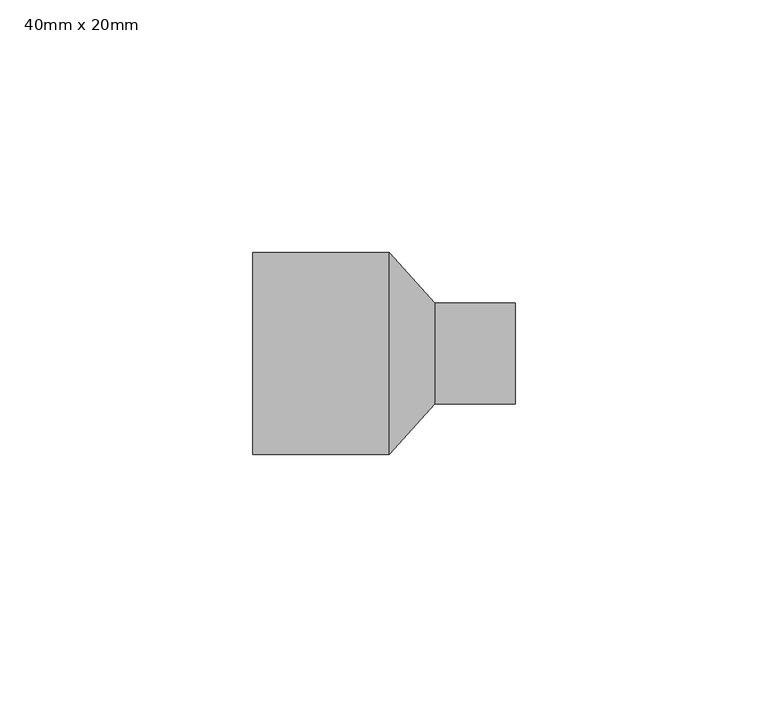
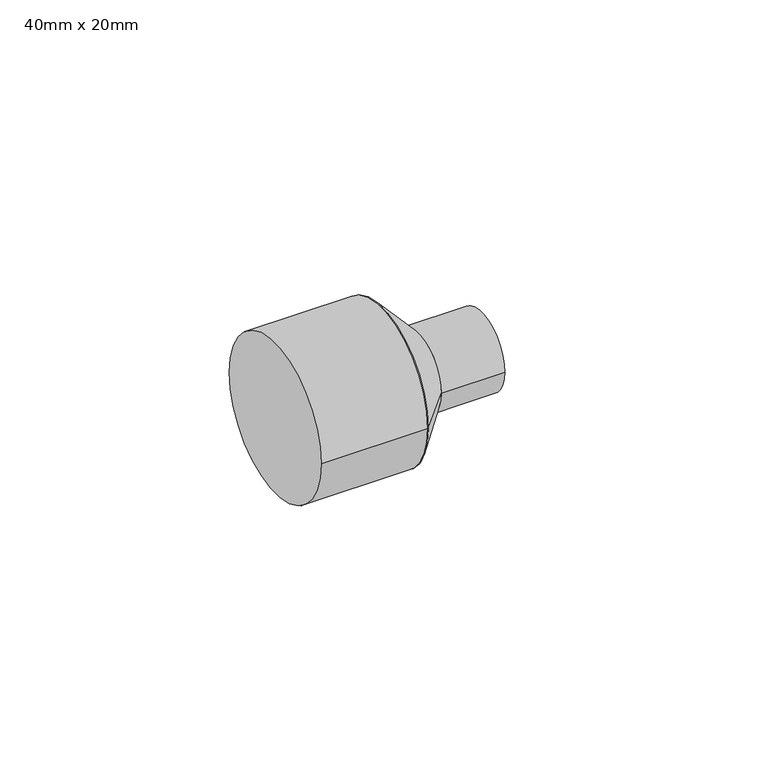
"""IFC4 building model written with IfcOpenShell, lengths in millimetres: pipe fitting geometry, PipeFitting_HTA_CPVC_ReducingBushesLongPattern : 40mm x 20mm."""

from ifc_helpers import new_model, si_unit, point, frame, origin, origin_2d, place, context, project, spatial, polyline, circle_curve, trimmed, segment, composite_curve, outline, extrude, source, transform, mapped, element, save
from ifc_brep_helpers import plane_surface, revolved_surface, advanced_brep


def pipe_fitting_40mm_x_20mm_d5b63251(model_context):
    return source(origin(), model_context, "Body", "SolidModel", [
        advanced_brep(
        [(36.0, -10.0, 0.0), (36.0, 10.0, 0.0), (27.0, -20.0, 0.0), (27.0, 20.0, 0.0)],
        [
            (0, 1, circle_curve(frame((36.0, 0.0, 0.0), z_axis=(1.0, 0.0, 0.0), x_axis=(0.0, -1.0, 0.0)), 10.0)),
            (1, 0, circle_curve(frame((36.0, 0.0, 0.0), z_axis=(1.0, 0.0, 0.0), x_axis=(0.0, 1.0, 0.0)), 10.0)),
            (2, 3, circle_curve(frame((27.0, 0.0, 0.0), z_axis=(-1.0, 0.0, 0.0), x_axis=(0.0, 1.0, 0.0)), 20.0)),
            (3, 2, circle_curve(frame((27.0, 0.0, 0.0), z_axis=(-1.0, 0.0, 0.0), x_axis=(0.0, -1.0, 0.0)), 20.0)),
            (3, 1),
            (0, 2),
        ],
        [
            plane_surface(frame((36.0, 0.0, 0.0), z_axis=(1.0, 0.0, 0.0), x_axis=(0.0, 0.0, -1.0))),
            plane_surface(frame((27.0, 0.0, 0.0), z_axis=(-1.0, 0.0, 0.0), x_axis=(0.0, 0.0, -1.0))),
            revolved_surface(polyline([(36.0, -10.0, 0.0), (27.0, -20.0, 0.0)]), (45.0, 0.0, 0.0), (-1.0, 0.0, 0.0)),
            revolved_surface(polyline([(36.0, 10.0, 0.0), (27.0, 20.0, 0.0)]), (45.0, 0.0, 0.0), (-1.0, 0.0, 0.0)),
        ],
        [
            (0, [[1, 2]]),
            (1, [[3, 4]]),
            (2, [[-4, 5, -1, 6]]),
            (3, [[-3, -6, -2, -5]]),
        ],
    ),
        extrude(outline(composite_curve([segment(trimmed(circle_curve(origin_2d(), 10.0), [point((-10.0, 0.0))], [point((10.0, 0.0))], False, "CARTESIAN"), True, "CONTINUOUS"), segment(trimmed(circle_curve(origin_2d(), 10.0), [point((10.0, 0.0))], [point((-10.0, 0.0))], False, "CARTESIAN"), True, "CONTINUOUS")], self_intersect=False)), frame((36.0, 0.0, 0.0), z_axis=(1.0, 0.0, 0.0), x_axis=(0.0, 1.0, 0.0)), (0.0, 0.0, 1.0), 16.0),
        extrude(outline(composite_curve([segment(trimmed(circle_curve(origin_2d(), 20.0), [point((-20.0, 0.0))], [point((20.0, 0.0))], False, "CARTESIAN"), True, "CONTINUOUS"), segment(trimmed(circle_curve(origin_2d(), 20.0), [point((20.0, 0.0))], [point((-20.0, 0.0))], False, "CARTESIAN"), True, "CONTINUOUS")], self_intersect=False)), frame((0.0, 0.0, 0.0), z_axis=(1.0, 0.0, 0.0), x_axis=(0.0, 1.0, 0.0)), (0.0, 0.0, 1.0), 27.0),
    ])


if __name__ == "__main__":
    model = new_model("IFC4")
    model_context = context("Model", 3, world=origin())
    ifc_project = project(units=[si_unit("LENGTHUNIT", "METRE", prefix="MILLI")], contexts=[model_context])
    site = spatial("IfcSite", under=ifc_project)
    building = spatial("IfcBuilding", under=site)
    placement = place(None, origin())
    pipe_fitting_40mm_x_20mm_shape = pipe_fitting_40mm_x_20mm_d5b63251(model_context)
    element("IfcPipeFitting", 1, ObjectType="PipeFitting_HTA_CPVC_ReducingBushesLongPattern : 40mm x 20mm", at=placement, inside=building, context=model_context, shape_type="MappedRepresentation", body=[
        mapped(pipe_fitting_40mm_x_20mm_shape, transform((0.0, 0.0, 0.0), x_axis=(1.0, 0.0, 0.0), y_axis=(0.0, 1.0, 0.0), z_axis=(0.0, 0.0, 1.0))),
    ])
    save(model, "model.ifc")
